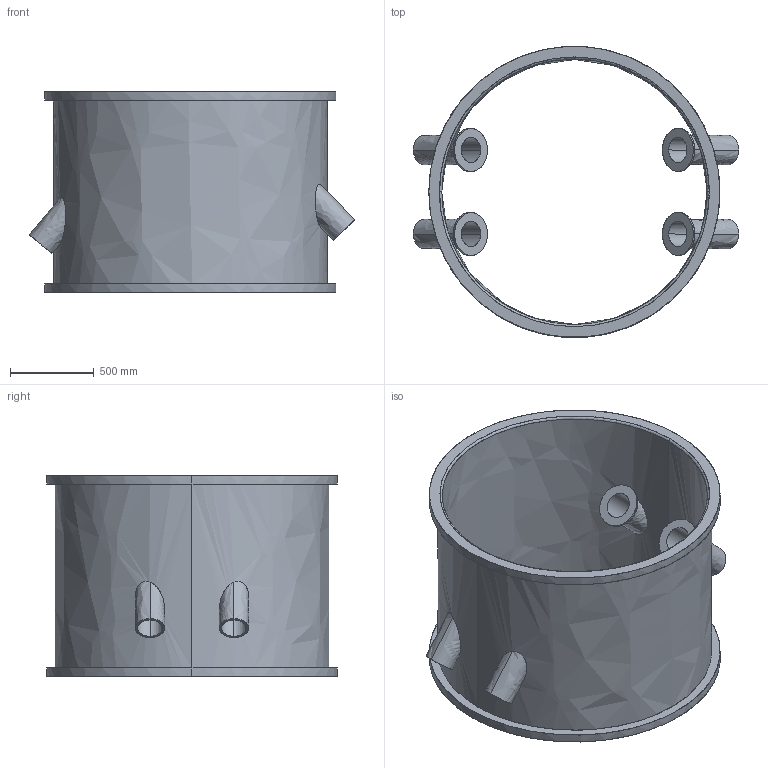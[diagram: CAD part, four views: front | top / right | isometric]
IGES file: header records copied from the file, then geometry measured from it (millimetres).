
Start section: Comment
Global section: file name: vessel.iges; native system:  By UGS Corp.; preprocessor: XPlus GENERIC/IGES 3.0; author: Author; organization: Title; date: 20090504.133108; units: millimetre
Bounding box: 1936.37 x 1730.3 x 1196.37 mm (x, y, z)
Surface area: 15021555.5 mm2 (no closed solid volume)
Topology: 0 solids, 0 shells, 60 faces, 256 edges, 256 vertices
Faces by surface type: bspline 60
